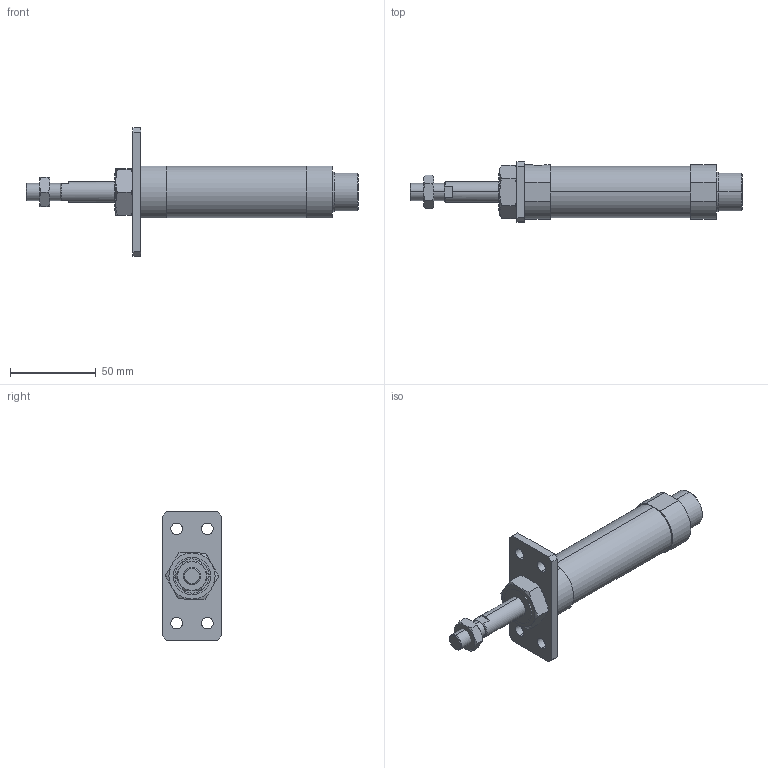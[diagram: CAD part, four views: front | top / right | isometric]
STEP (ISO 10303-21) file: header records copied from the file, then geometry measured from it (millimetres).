
FILE_DESCRIPTION (( 'STEP AP203' ), '1' );
FILE_NAME ('J#0-25-25-A.STEP', '2016-03-08T06:33:12', ( '' ), ( '' ), 'SwSTEP 2.0', 'SolidWorks 2014', '' );
FILE_SCHEMA (( 'CONFIG_CONTROL_DESIGN' ));
Length unit declared in the file: millimetre
Products named in the file (5): J#2-25-A; J#0-25-25-A; J#0-25-25
Assembly tree (4 placements, depth 2):
  J#0-25-25-A
    J#0-25-25
    (unnamed)
    (unnamed)
    J#2-25-A
Bounding box: 194 x 35 x 75 mm (x, y, z)
Volume: 110417.1 mm3; surface area: 25762.6 mm2
Topology: 4 solids, 4 shells, 113 faces, 258 edges, 157 vertices
Faces by surface type: plane 47, cylinder 34, torus 24, cone 8
Entity records: 3959 total; most frequent: CARTESIAN_POINT 907, DIRECTION 542, ORIENTED_EDGE 512, EDGE_CURVE 256, AXIS2_PLACEMENT_3D 220, VERTEX_POINT 157, EDGE_LOOP 133, ADVANCED_FACE 113
